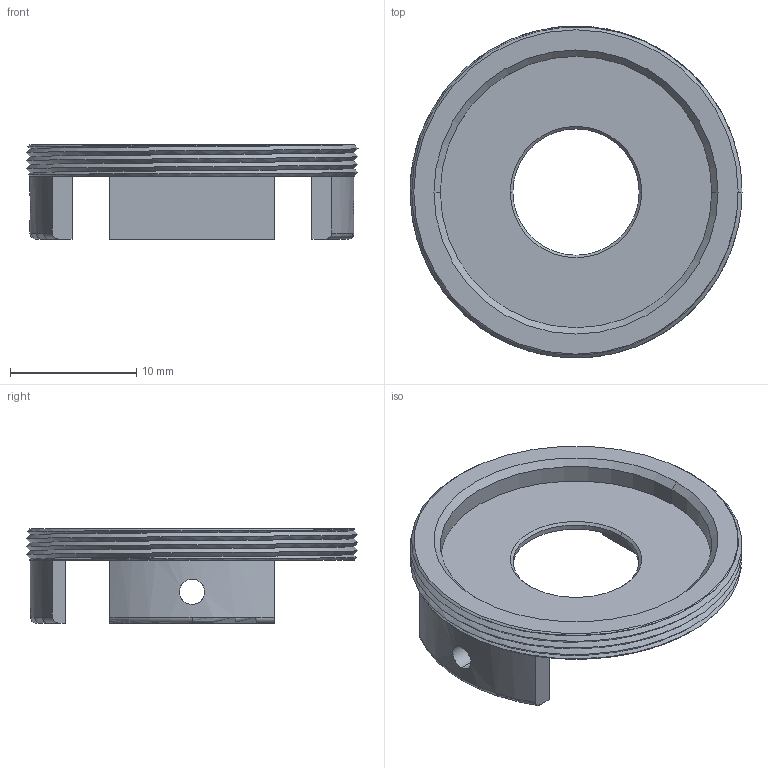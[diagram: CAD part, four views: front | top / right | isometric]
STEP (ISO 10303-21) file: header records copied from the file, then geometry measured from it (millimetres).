
FILE_DESCRIPTION (( 'STEP AP203' ), '1' );
FILE_NAME ('23425-E01.STEP', '2012-01-20T10:30:48', ( 'Manfred Gonnert' ), ( 'Thorlabs GmbH' ), 'SwSTEP 2.0', 'SolidWorks 2011', '' );
FILE_SCHEMA (( 'CONFIG_CONTROL_DESIGN' ));
Length unit declared in the file: millimetre
Products named in the file (1): 23425-E01
Bounding box: 26.29 x 26.28 x 7.5 mm (x, y, z)
Volume: 1057 mm3; surface area: 1752.7 mm2
Topology: 1 solids, 1 shells, 44 faces, 113 edges, 73 vertices
Faces by surface type: plane 16, cylinder 13, cone 9, torus 4, bspline 2
Entity records: 2004 total; most frequent: CARTESIAN_POINT 871, ORIENTED_EDGE 226, DIRECTION 211, EDGE_CURVE 113, AXIS2_PLACEMENT_3D 80, VERTEX_POINT 73, EDGE_LOOP 52, VECTOR 51
